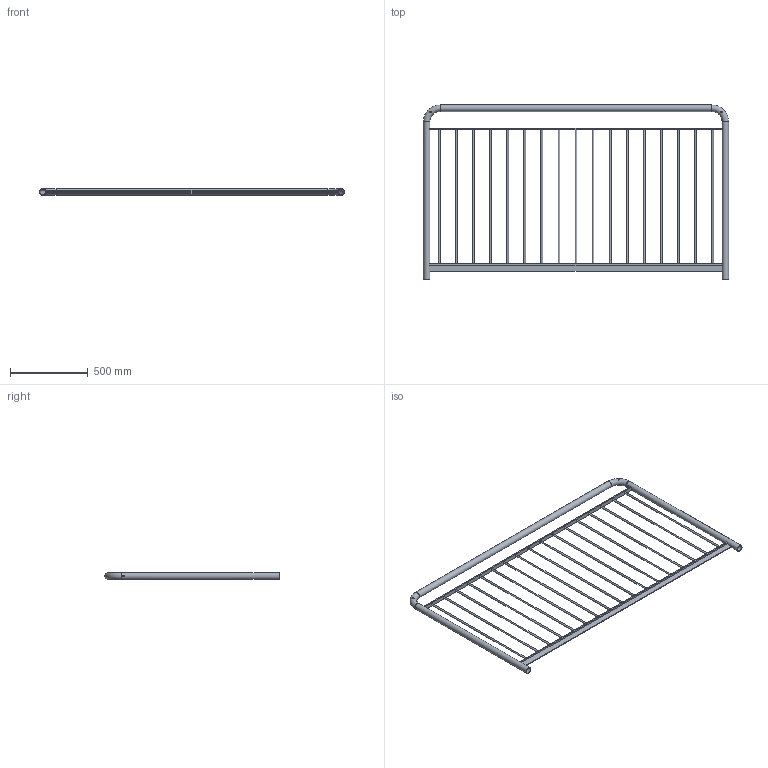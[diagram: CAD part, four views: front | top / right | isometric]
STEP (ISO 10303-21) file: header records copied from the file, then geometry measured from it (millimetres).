
FILE_DESCRIPTION((''),'2;1');
FILE_NAME('S:\Användarkataloger\AndreasA\Mina Inventor filer\Räcken\STEP\modul_bos_2000-1100.stp','2010-09-07T13:27:48',('AndreasA'),(''),'Autodesk Inventor 2011','Autodesk Inventor 2011','');
FILE_SCHEMA(('AUTOMOTIVE_DESIGN { 1 0 10303 214 1 1 1 1 }'));
Length unit declared in the file: millimetre
Products named in the file (4): modul_bos_2000-1100; handledare_modul_2000-1100; galleri_modul_2000; pls_modul_bos_2000
Assembly tree (3 placements, depth 2):
  modul_bos_2000-1100
    handledare_modul_2000-1100
    galleri_modul_2000
    pls_modul_bos_2000
Bounding box: 1965.4 x 1121.2 x 42.4 mm (x, y, z)
Volume: 3550544.1 mm3; surface area: 1950423.9 mm2
Topology: 3 solids, 3 shells, 55 faces, 145 edges, 94 vertices
Faces by surface type: cylinder 31, plane 20, torus 4
Full cylindrical faces by diameter (mm): 10 x4, 11 x21, 38.4 x3, 42.4 x3
Entity records: 2337 total; most frequent: CARTESIAN_POINT 962, DIRECTION 252, ORIENTED_EDGE 196, EDGE_LOOP 142, AXIS2_PLACEMENT_3D 108, EDGE_CURVE 98, FACE_BOUND 87, VERTEX_POINT 86
